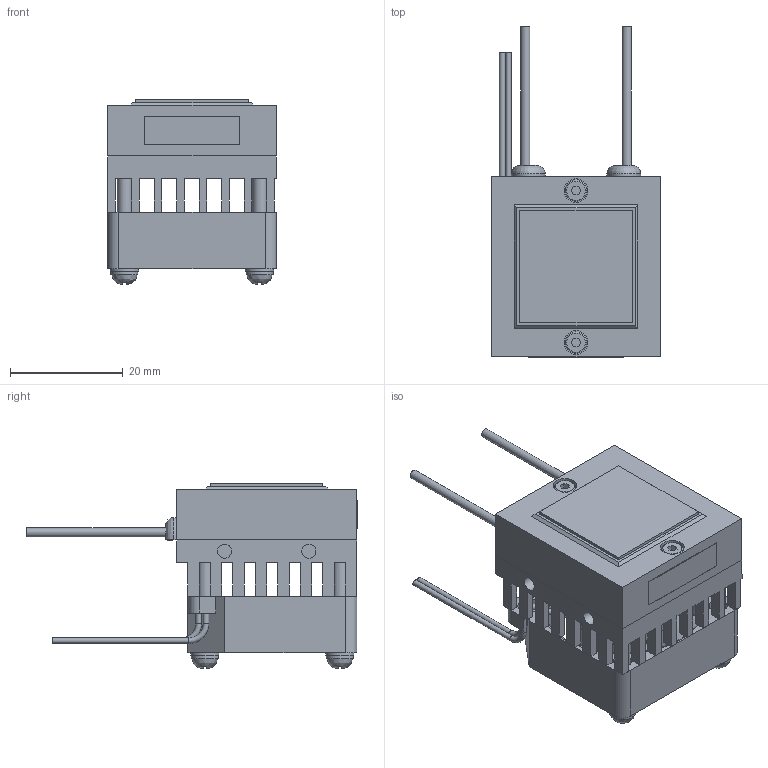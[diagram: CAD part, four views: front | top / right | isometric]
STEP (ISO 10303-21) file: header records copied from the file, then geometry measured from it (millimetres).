
FILE_DESCRIPTION(('STEP AP214'),'1');
FILE_NAME('HMC-18F-0300.stp','2026-03-16T23:36:31',(' '),(' '),'Spatial InterOp 3D',' ',' ');
FILE_SCHEMA(('AUTOMOTIVE_DESIGN { 1 0 10303 214 1 1 1 1 }'));
Length unit declared in the file: metre
Products named in the file (13): HMC-18F-0300; ヒートシンク; 樹脂枠; 冷却板板; 六角ﾎﾞﾙﾄ; DCファンモーター; 接着剤; ペルチェリード線; 接着剤2; ファンリード線; ファン固定ネジ用ﾜｯｼｬｰ; ファン固定ネジ; 製造番号シール
Assembly tree (12 placements, depth 2):
  HMC-18F-0300
    ヒートシンク
    樹脂枠
    冷却板板
    六角ﾎﾞﾙﾄ
    DCファンモーター
    接着剤
    ペルチェリード線
    接着剤2
    ファンリード線
    ファン固定ネジ用ﾜｯｼｬｰ
    ファン固定ネジ
    製造番号シール
Bounding box: 30 x 58.77 x 32.8 mm (x, y, z)
Volume: 18379.5 mm3; surface area: 17165.8 mm2
Topology: 20 solids, 20 shells, 571 faces, 1456 edges, 939 vertices
Faces by surface type: plane 486, cylinder 57, bspline 15, torus 7, extrusion 5, cone 1
Full cylindrical faces by diameter (mm): 1 x6, 1.6 x2, 2 x4, 2.4 x4, 2.5 x4, 2.6 x10, 3.2 x3, 3.8 x2, 4 x1, 4.2 x2, 4.8 x3, 5 x3, 15.8 x2, 28.3 x1
Entity records: 22528 total; most frequent: CARTESIAN_POINT 4437, ORIENTED_EDGE 2638, DIRECTION 2505, EDGE_CURVE 1319, VECTOR 1071, LINE 1066, VERTEX_POINT 911, EDGE_LOOP 732
